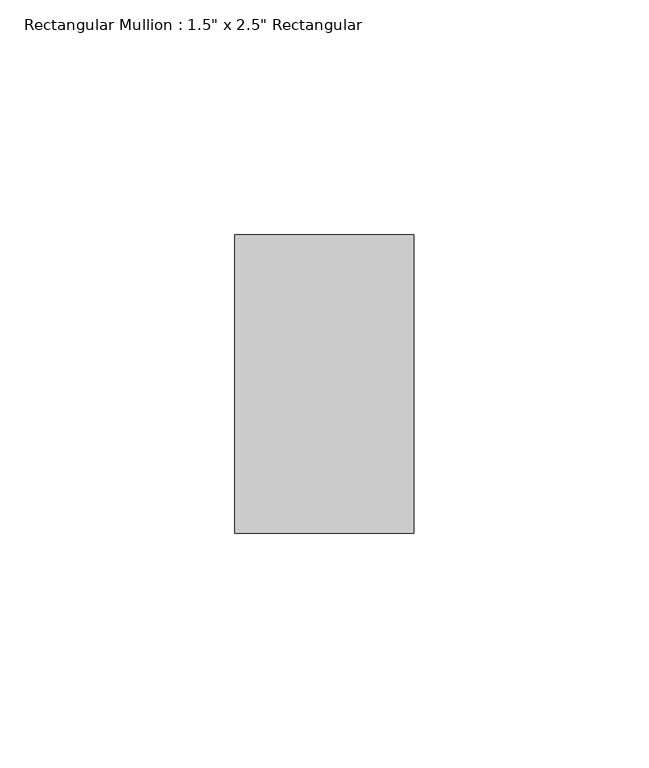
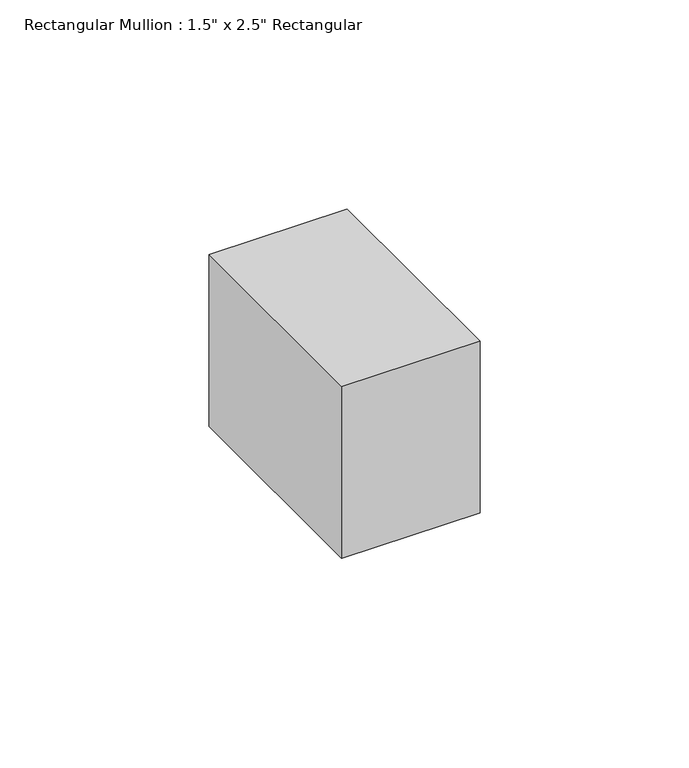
"""IFC4 building model written with IfcOpenShell, lengths in millimetres: member geometry."""

from ifc_helpers import new_model, si_unit, frame, origin, place, context, project, spatial, polyline, outline, extrude, source, transform, mapped, element, save


def member_beb33b19(model_context):
    return source(origin(), model_context, "Body", "SweptSolid", [
        extrude(outline(polyline([(0.0, 31.75), (0.0, -31.75), (-38.1, -31.75), (-38.1, 31.75), (0.0, 31.75)])), frame((0.0, 0.0, -50.2011579), z_axis=(0.0, 0.0, 1.0), x_axis=(1.0, 0.0, 0.0)), (0.0, 0.0, 1.0), 50.2011579),
    ])


if __name__ == "__main__":
    model = new_model("IFC4")
    model_context = context("Model", 3, world=origin())
    ifc_project = project(units=[si_unit("LENGTHUNIT", "METRE", prefix="MILLI")], contexts=[model_context])
    site = spatial("IfcSite", under=ifc_project)
    building = spatial("IfcBuilding", under=site)
    placement = place(None, origin())
    member_shape = member_beb33b19(model_context)
    element("IfcMember", 1, ObjectType="Rectangular Mullion : 1.5\" x 2.5\" Rectangular", at=placement, inside=building, context=model_context, shape_type="MappedRepresentation", body=[
        mapped(member_shape, transform((0.0, 0.0, 0.0), x_axis=(1.0, 0.0, 0.0), y_axis=(0.0, 1.0, 0.0), z_axis=(0.0, 0.0, 1.0))),
    ])
    save(model, "model.ifc")
